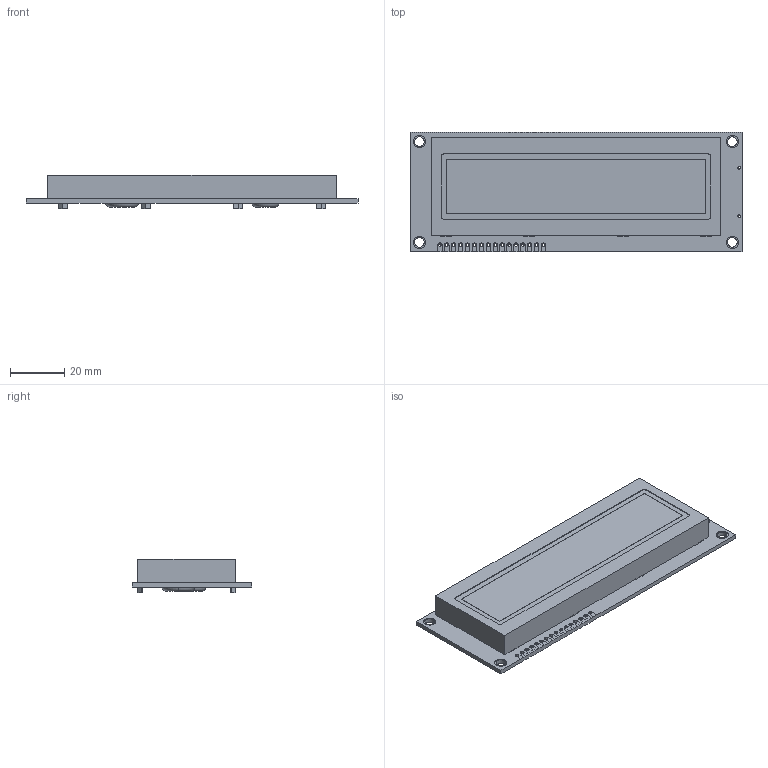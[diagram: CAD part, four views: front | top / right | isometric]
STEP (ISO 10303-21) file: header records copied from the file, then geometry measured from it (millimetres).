
FILE_DESCRIPTION (( 'STEP AP214' ), '1' );
FILE_NAME ('NHD-0216SZ-FL.STEP', '2018-02-28T21:42:33', ( '' ), ( '' ), 'SwSTEP 2.0', 'SolidWorks 2018', '' );
FILE_SCHEMA (( 'AUTOMOTIVE_DESIGN' ));
Length unit declared in the file: millimetre
Products named in the file (1): NHD-0216SZ-FL
Bounding box: 122 x 44 x 12.3 mm (x, y, z)
Volume: 40872.6 mm3; surface area: 14193.4 mm2
Topology: 1 solids, 1 shells, 371 faces, 1052 edges, 688 vertices
Faces by surface type: plane 239, cylinder 128, torus 4
Entity records: 16229 total; most frequent: CARTESIAN_POINT 2112, ORIENTED_EDGE 2104, DIRECTION 2064, EDGE_CURVE 1052, VECTOR 784, LINE 784, VERTEX_POINT 688, AXIS2_PLACEMENT_3D 640
